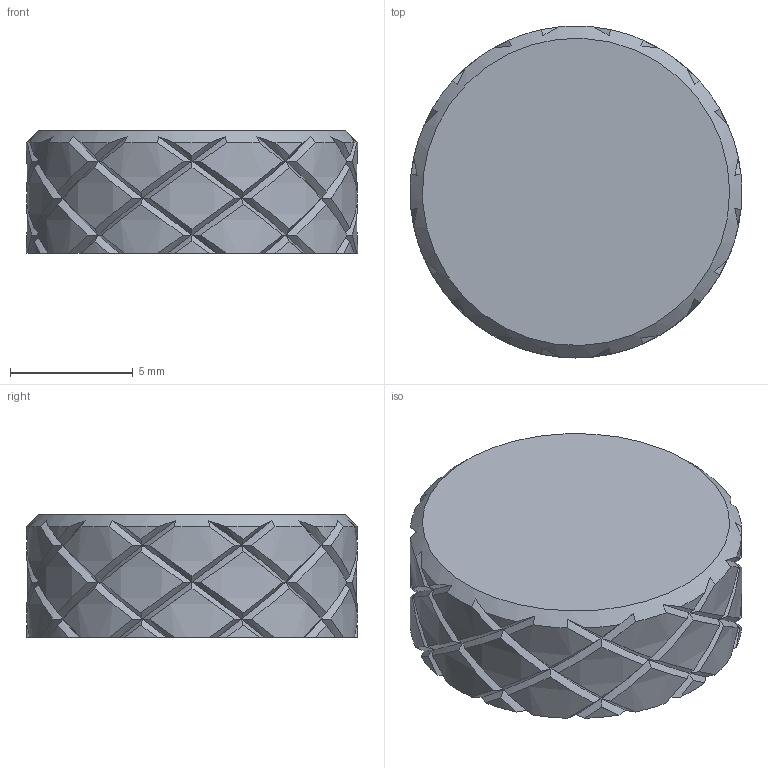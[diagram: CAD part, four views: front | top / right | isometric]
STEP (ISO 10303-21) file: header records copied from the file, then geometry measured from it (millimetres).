
FILE_DESCRIPTION(/* description */ ('Unknown','CAx-IF Rec.Pracs.---Representation and Presentation of Product Manufacturing Information (PMI)---4.0---2014-10-13','CAx-IF Rec.Pracs.---3D Tessellated Geometry---0.4---2014-09-14','2;1'),/* implementation_level */ '2;1');
FILE_NAME(/* name */ 'WL_D4.5_Top',/* time_stamp */ '2024-11-07T09:24:11+01:00',/* author */ ('Unknown'),/* organization */ ('Unknown'),/* preprocessor_version */ 'ST-DEVELOPER v19.4',/* originating_system */ 'Solid Edge',/* authorisation */ 'Unknown');
FILE_SCHEMA (('AP242_MANAGED_MODEL_BASED_3D_ENGINEERING_MIM_LF { 1 0 10303 442 1 1 4 }'));
Products named in the file (1): WL_D4.5_Top
Bounding box: 13.5 x 13.5 x 5 mm (x, y, z)
Surface area: 713.6 mm2 (no closed solid volume)
Topology: 0 solids, 1 shells, 351 faces, 772 edges, 423 vertices
Faces by surface type: bspline 282, cylinder 53, plane 15, cone 1
Entity records: 100669 total; most frequent: CARTESIAN_POINT 95959, ORIENTED_EDGE 1536, EDGE_CURVE 768, VERTEX_POINT 421, EDGE_LOOP 353, FACE_BOUND 353, ADVANCED_FACE 351, B_SPLINE_CURVE_WITH_KNOTS 337
